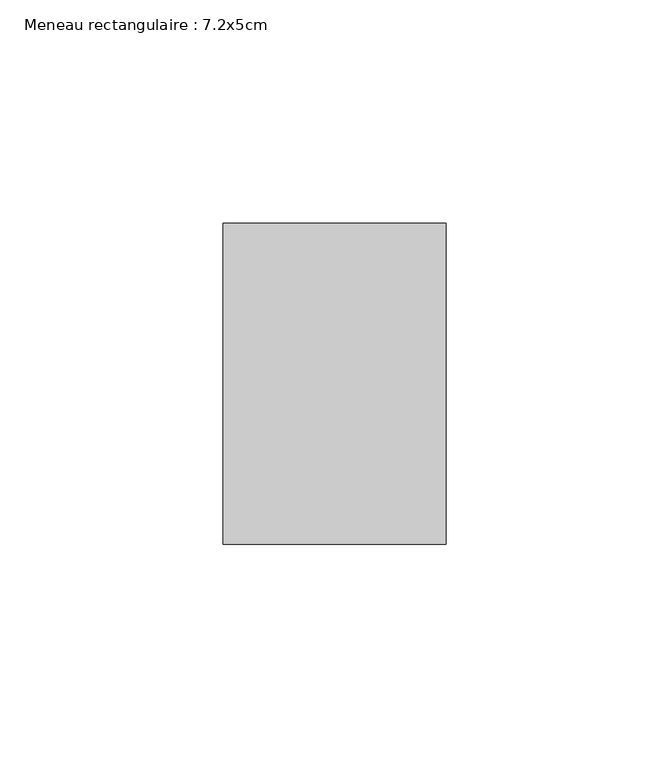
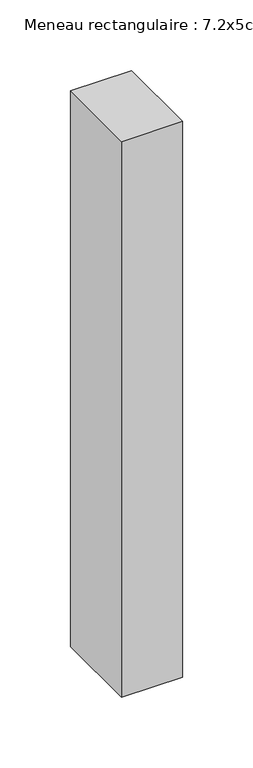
"""IFC4 building model written with IfcOpenShell, lengths in millimetres: member geometry, Meneau rectangulaire : 7.2x5cm."""

from ifc_helpers import new_model, si_unit, frame, origin, place, context, project, spatial, polyline, outline, extrude, source, transform, mapped, element, save


def meneau_rectangulaire_7_2x5cm_78f701de(model_context):
    return source(origin(), model_context, "Body", "SweptSolid", [
        extrude(outline(polyline([(25.0, 36.0), (25.0, -36.0), (-25.0, -36.0), (-25.0, 36.0), (25.0, 36.0)])), frame((0.0, 0.0, -480.0), z_axis=(0.0, 0.0, 1.0), x_axis=(1.0, 0.0, 0.0)), (0.0, 0.0, 1.0), 480.0),
    ])


if __name__ == "__main__":
    model = new_model("IFC4")
    model_context = context("Model", 3, world=origin())
    ifc_project = project(units=[si_unit("LENGTHUNIT", "METRE", prefix="MILLI")], contexts=[model_context])
    site = spatial("IfcSite", under=ifc_project)
    building = spatial("IfcBuilding", under=site)
    placement = place(None, origin())
    meneau_rectangulaire_7_2x5cm_shape = meneau_rectangulaire_7_2x5cm_78f701de(model_context)
    element("IfcMember", 1, ObjectType="Meneau rectangulaire : 7.2x5cm", at=placement, inside=building, context=model_context, shape_type="MappedRepresentation", body=[
        mapped(meneau_rectangulaire_7_2x5cm_shape, transform((0.0, 0.0, 0.0), x_axis=(1.0, 0.0, 0.0), y_axis=(0.0, 1.0, 0.0), z_axis=(0.0, 0.0, 1.0))),
    ])
    save(model, "model.ifc")
